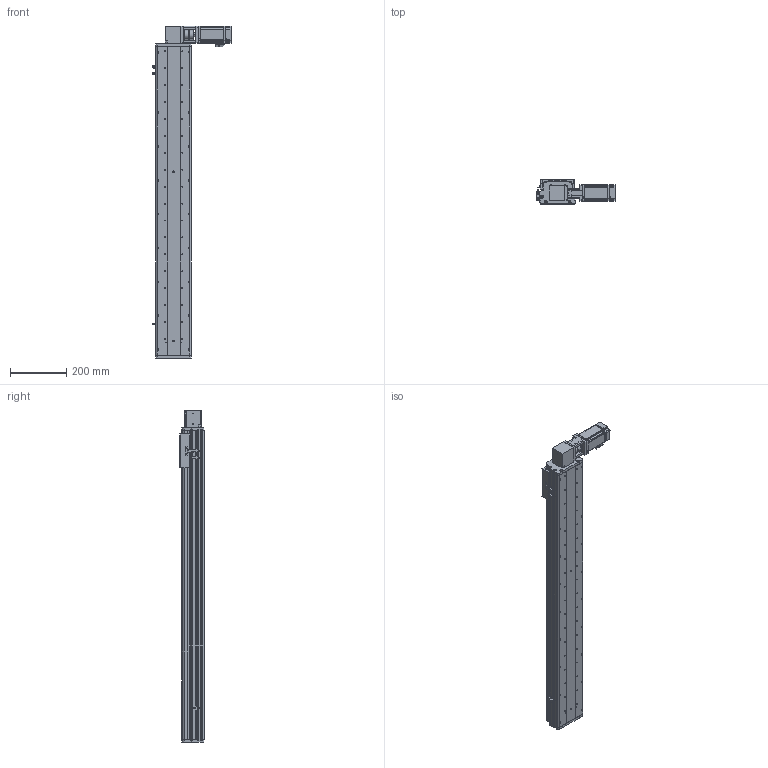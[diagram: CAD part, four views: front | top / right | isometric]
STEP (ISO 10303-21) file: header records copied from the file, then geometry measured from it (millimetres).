
FILE_DESCRIPTION (( 'STEP AP214' ), '1' );
FILE_NAME ('KSD125B-S900-MRT-CM.STEP', '2017-10-21T07:01:13', ( '微软用户' ), ( '微软中国' ), 'SwSTEP 2.0', 'SolidWorks 2014', '' );
FILE_SCHEMA (( 'AUTOMOTIVE_DESIGN' ));
Length unit declared in the file: millimetre
Products named in the file (16): KSD125B-S900-MRT-CM; 100宽马达安装板同步带左; KSD125模组900行程同步带-防尘盖; 125模组900行程同步带-底板; MHMD042G1CA_2_03; KSD125模组同步带-防撞垫2; CS-34X32-10X14; 100遵鎮湛假蚾啣1 ; 覜茼え68遵圉猾敕; U倰嫖萇假蚾璃; U倰嫖萇EEㄜSX672; KSD125模组同步带-防撞垫1; 100宽安装板同步带带电机座400W,86; 前端板-125宽模组同步带; 125模组同步带-尾端板1; KSD125模组同步带-滑动座1
Assembly tree (19 placements, depth 2):
  KSD125B-S900-MRT-CM
    KSD125模组同步带-滑动座1
    125模组同步带-尾端板1
    前端板-125宽模组同步带
    100宽安装板同步带带电机座400W,86
    KSD125模组同步带-防撞垫1
    U倰嫖萇EEㄜSX672  x3
    U倰嫖萇假蚾璃  x3
    覜茼え68遵圉猾敕
    100遵鎮湛假蚾啣1 
    CS-34X32-10X14
    KSD125模组同步带-防撞垫2
    MHMD042G1CA_2_03
    125模组900行程同步带-底板
    KSD125模组900行程同步带-防尘盖
    100宽马达安装板同步带左
Bounding box: 282.7 x 86 x 1177 mm (x, y, z)
Volume: 3643748.7 mm3; surface area: 1203024.2 mm2
Topology: 18 solids, 21 shells, 1700 faces, 4876 edges, 3216 vertices
Faces by surface type: cylinder 893, plane 704, cone 81, bspline 22
Entity records: 59868 total; most frequent: CARTESIAN_POINT 12086, DIRECTION 8763, ORIENTED_EDGE 8272, EDGE_CURVE 4214, AXIS2_PLACEMENT_3D 3261, VERTEX_POINT 2808, VECTOR 2241, LINE 2241
